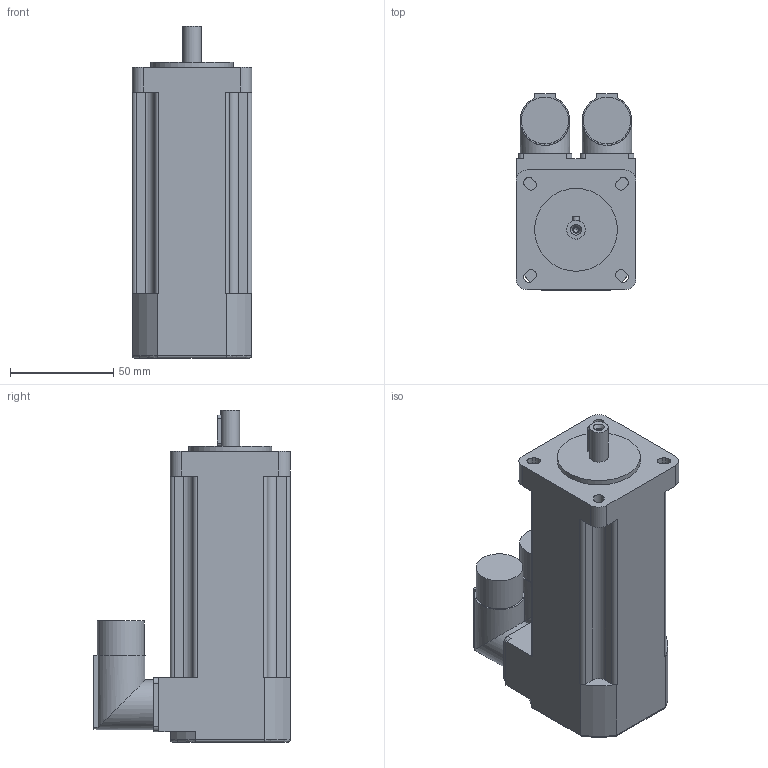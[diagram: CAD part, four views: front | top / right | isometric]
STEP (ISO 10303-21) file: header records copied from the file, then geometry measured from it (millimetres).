
FILE_DESCRIPTION(/* description */ (''),/* implementation_level */ '2;1');
FILE_NAME(/* name */ 'C:\Users\Pastrello_Ylenia\Desktop\Modelli 3D Serad\B28Q\Resolver\Resolver Brake\B28D7Qxx6B052000.stp',/* time_stamp */ '2015-06-10T17:03:49+02:00',/* author */ ('Pastrello_Ylenia'),/* organization */ (''),/* preprocessor_version */ 'ST-DEVELOPER v15.6',/* originating_system */ 'Autodesk Inventor 2015',/* authorisation */ '');
FILE_SCHEMA (('AUTOMOTIVE_DESIGN { 1 0 10303 214 3 1 1 }'));
Length unit declared in the file: millimetre
Products named in the file (1): B28D7Qxx6B052000
Bounding box: 58 x 95 x 160.5 mm (x, y, z)
Volume: 486045.7 mm3; surface area: 50063.4 mm2
Topology: 1 solids, 1 shells, 140 faces, 374 edges, 243 vertices
Faces by surface type: plane 72, cylinder 62, torus 4, cone 2
Full cylindrical faces by diameter (mm): 2.5 x1, 3.2 x1, 9 x1, 22.7 x2, 24 x2, 40 x1
Entity records: 4441 total; most frequent: CARTESIAN_POINT 879, DIRECTION 757, ORIENTED_EDGE 722, EDGE_CURVE 360, AXIS2_PLACEMENT_3D 268, VERTEX_POINT 240, LINE 221, VECTOR 221
